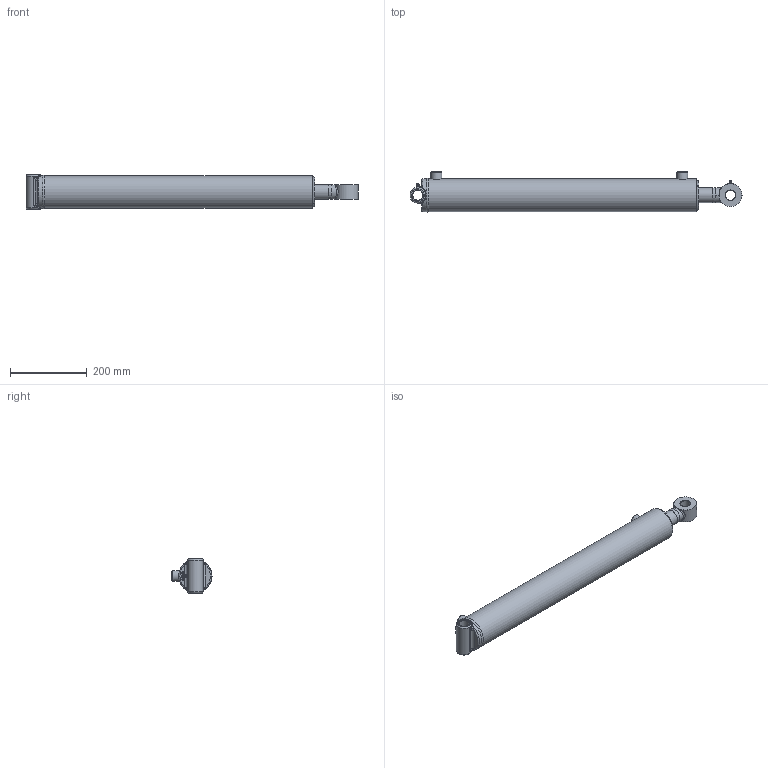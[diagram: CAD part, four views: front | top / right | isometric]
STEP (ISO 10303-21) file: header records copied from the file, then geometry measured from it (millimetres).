
FILE_DESCRIPTION(/* description */ ('Ø3.00 X 24.00 DA'),/* implementation_level */ '2;1');
FILE_NAME(/* name */ 'T:\Aces\Jobs\4b5d22373d55497d962c8abeaa582541\result.stp',/* time_stamp */ '2023-03-03T16:26:59+00:00',/* author */ (''),/* organization */ ('PRINCE MANUFACTURING'),/* preprocessor_version */ 'ST-DEVELOPER v18.1',/* originating_system */ 'Autodesk Inventor 2022',/* authorisation */ '');
FILE_SCHEMA (('AUTOMOTIVE_DESIGN { 1 0 10303 214 3 1 1 }'));
Length unit declared in the file: inch
Products named in the file (21): PC3024015A00-320XTXS; 0615-XTSF000-27507; 0515-T-27507; 161500198; 200015603; 06Weld1_C360; 0715-P-100; 220000210; 0815-G-150; 230025104; 230025004; 240000022; 240061334; 240000334; 0208A-HAW2-29813XS; 0108A-HAW2-29813; 210400772; 02Weld_C360; 240020059; 250014150; 270010020
Assembly tree (22 placements, depth 3):
  PC3024015A00-320XTXS
    0615-XTSF000-27507
      0515-T-27507
      161500198
      200015603  x2
      06Weld1_C360
    0715-P-100
    220000210
    0815-G-150
    230025104
    230025004
    240000022
    240061334
    240000334
    0208A-HAW2-29813XS
      0108A-HAW2-29813
      210400772
      02Weld_C360
    240020059
    250014150
    270010020  x2
Bounding box: 862.84 x 104.04 x 88.9 mm (x, y, z)
Volume: 2175854.5 mm3; surface area: 602556.7 mm2
Topology: 26 solids, 26 shells, 564 faces, 1375 edges, 870 vertices
Faces by surface type: bspline 162, plane 135, torus 95, cylinder 84, cone 84, sphere 4
Full cylindrical faces by diameter (mm): 2.143 x4, 3.175 x1, 5.359 x2, 6.35 x2, 9.525 x2, 12.649 x1, 12.7 x1, 12.725 x1, 17.323 x2, 23.444 x1, 25.349 x1, 25.476 x1, 25.781 x1, 26.162 x1, 27.965 x1, 28.575 x2, 38.1 x1, 38.176 x2, 39.294 x2, 40.132 x1, 40.488 x1, 45.263 x1, 46.457 x1, 47.65 x1, 49.276 x2, 50.8 x2, 61.976 x1, 63.5 x2, 66.777 x2, 67.513 x2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
Entity records: 35069 total; most frequent: CARTESIAN_POINT 22422, ORIENTED_EDGE 2512, DIRECTION 2178, EDGE_CURVE 1256, AXIS2_PLACEMENT_3D 915, VERTEX_POINT 809, EDGE_LOOP 595, FACE_OUTER_BOUND 520
